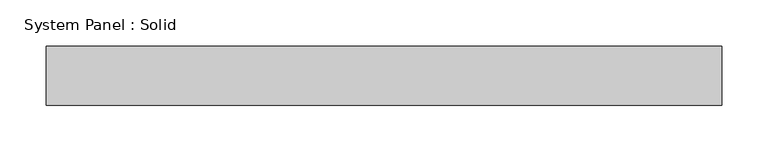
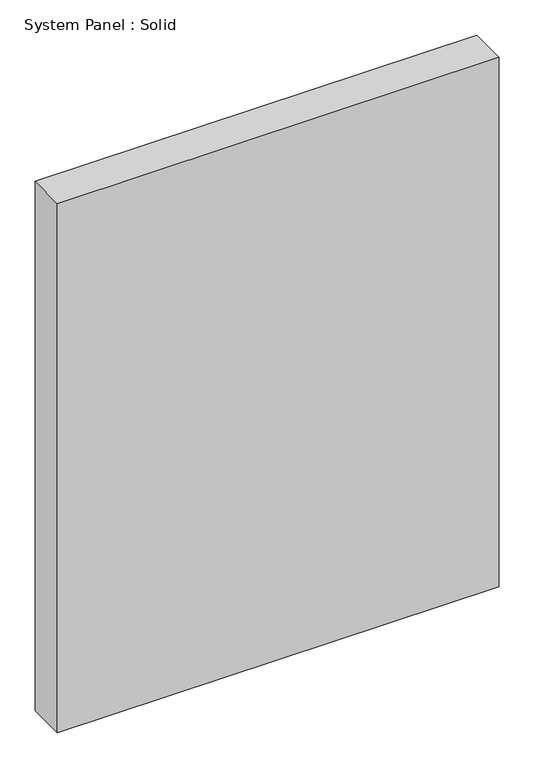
"""IFC4 building model written with IfcOpenShell, lengths in millimetres: plate geometry, System Panel : Solid."""

from ifc_helpers import new_model, si_unit, origin, origin_with_axes, place, context, project, spatial, polyline, outline, extrude, source, transform, mapped, element, save


def system_panel_solid_72787f54(model_context):
    return source(origin(), model_context, "Body", "SweptSolid", [
        extrude(outline(polyline([(363.5420701, -19.05), (-363.5420701, -19.05), (-363.5420701, 44.45), (363.5420701, 44.45), (363.5420701, -19.05)])), origin_with_axes(), (0.0, 0.0, 1.0), 920.75),
    ])


if __name__ == "__main__":
    model = new_model("IFC4")
    model_context = context("Model", 3, world=origin())
    ifc_project = project(units=[si_unit("LENGTHUNIT", "METRE", prefix="MILLI")], contexts=[model_context])
    site = spatial("IfcSite", under=ifc_project)
    building = spatial("IfcBuilding", under=site)
    placement = place(None, origin())
    system_panel_solid_shape = system_panel_solid_72787f54(model_context)
    element("IfcPlate", 1, ObjectType="System Panel : Solid", at=placement, inside=building, context=model_context, shape_type="MappedRepresentation", body=[
        mapped(system_panel_solid_shape, transform((0.0, 0.0, 0.0), x_axis=(1.0, 0.0, 0.0), y_axis=(0.0, 1.0, 0.0), z_axis=(0.0, 0.0, 1.0))),
    ])
    save(model, "model.ifc")
